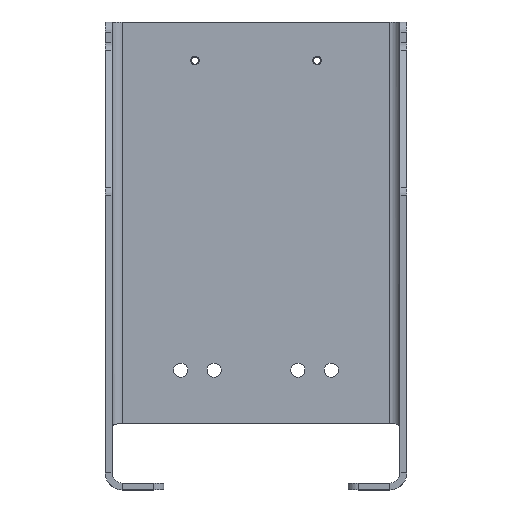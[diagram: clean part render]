
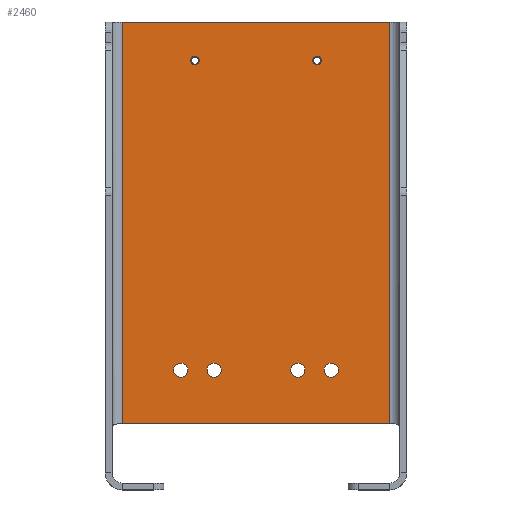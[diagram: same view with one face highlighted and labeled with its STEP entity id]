
A CAD part, top view. The second image highlights one B-rep face of the part: STEP entity #2460.
In plain terms, the highlighted planar face has unit normal (0, 0, 1).
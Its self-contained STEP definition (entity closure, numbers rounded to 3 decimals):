
#783=CARTESIAN_POINT('',(-36.5,0.,0.));
#784=DIRECTION('',(0.,0.,1.));
#785=DIRECTION('',(-1.,0.,0.));
#786=AXIS2_PLACEMENT_3D('',#783,#784,#785);
#791=CARTESIAN_POINT('',(-36.5,0.,0.));
#792=DIRECTION('',(0.,0.,1.));
#793=DIRECTION('',(1.,0.,0.));
#794=AXIS2_PLACEMENT_3D('',#791,#792,#793);
#799=CARTESIAN_POINT('',(36.5,0.,0.));
#800=DIRECTION('',(0.,0.,1.));
#801=DIRECTION('',(-1.,0.,0.));
#802=AXIS2_PLACEMENT_3D('',#799,#800,#801);
#807=CARTESIAN_POINT('',(36.5,0.,0.));
#808=DIRECTION('',(0.,0.,1.));
#809=DIRECTION('',(1.,0.,0.));
#810=AXIS2_PLACEMENT_3D('',#807,#808,#809);
#815=DIRECTION('',(0.,-1.,0.));
#816=VECTOR('',#815,240.);
#817=CARTESIAN_POINT('',(80.,23.,0.));
#818=LINE('',#817,#816);
#822=DIRECTION('',(-1.,0.,0.));
#823=VECTOR('',#822,160.);
#824=CARTESIAN_POINT('',(80.,-217.,0.));
#825=LINE('',#824,#823);
#829=DIRECTION('',(0.,1.,0.));
#830=VECTOR('',#829,240.);
#831=CARTESIAN_POINT('',(-80.,-217.,0.));
#832=LINE('',#831,#830);
#836=DIRECTION('',(1.,0.,0.));
#837=VECTOR('',#836,160.);
#838=CARTESIAN_POINT('',(-80.,23.,0.));
#839=LINE('',#838,#837);
#843=CARTESIAN_POINT('',(-45.,-185.,0.));
#844=DIRECTION('',(0.,0.,1.));
#845=DIRECTION('',(-1.,0.,0.));
#846=AXIS2_PLACEMENT_3D('',#843,#844,#845);
#851=CARTESIAN_POINT('',(-45.,-185.,0.));
#852=DIRECTION('',(0.,0.,1.));
#853=DIRECTION('',(1.,0.,0.));
#854=AXIS2_PLACEMENT_3D('',#851,#852,#853);
#859=CARTESIAN_POINT('',(-25.,-185.,0.));
#860=DIRECTION('',(0.,0.,1.));
#861=DIRECTION('',(-1.,0.,0.));
#862=AXIS2_PLACEMENT_3D('',#859,#860,#861);
#867=CARTESIAN_POINT('',(-25.,-185.,0.));
#868=DIRECTION('',(0.,0.,1.));
#869=DIRECTION('',(1.,0.,0.));
#870=AXIS2_PLACEMENT_3D('',#867,#868,#869);
#875=CARTESIAN_POINT('',(25.,-185.,0.));
#876=DIRECTION('',(0.,0.,1.));
#877=DIRECTION('',(-1.,0.,0.));
#878=AXIS2_PLACEMENT_3D('',#875,#876,#877);
#883=CARTESIAN_POINT('',(25.,-185.,0.));
#884=DIRECTION('',(0.,0.,1.));
#885=DIRECTION('',(1.,0.,0.));
#886=AXIS2_PLACEMENT_3D('',#883,#884,#885);
#891=CARTESIAN_POINT('',(45.,-185.,0.));
#892=DIRECTION('',(0.,0.,1.));
#893=DIRECTION('',(-1.,0.,0.));
#894=AXIS2_PLACEMENT_3D('',#891,#892,#893);
#899=CARTESIAN_POINT('',(45.,-185.,0.));
#900=DIRECTION('',(0.,0.,1.));
#901=DIRECTION('',(1.,0.,0.));
#902=AXIS2_PLACEMENT_3D('',#899,#900,#901);
#1588=CARTESIAN_POINT('',(80.,-217.,0.));
#1589=CARTESIAN_POINT('',(-80.,-217.,0.));
#1590=VERTEX_POINT('',#1588);
#1591=VERTEX_POINT('',#1589);
#1592=CARTESIAN_POINT('',(-80.,23.,0.));
#1593=CARTESIAN_POINT('',(80.,23.,0.));
#1594=VERTEX_POINT('',#1592);
#1595=VERTEX_POINT('',#1593);
#1604=CARTESIAN_POINT('',(-38.6,0.,0.));
#1605=CARTESIAN_POINT('',(-34.4,0.,0.));
#1606=VERTEX_POINT('',#1604);
#1607=VERTEX_POINT('',#1605);
#1612=CARTESIAN_POINT('',(34.4,0.,0.));
#1613=CARTESIAN_POINT('',(38.6,0.,0.));
#1614=VERTEX_POINT('',#1612);
#1615=VERTEX_POINT('',#1613);
#1668=CARTESIAN_POINT('',(-49.25,-185.,0.));
#1669=CARTESIAN_POINT('',(-40.75,-185.,0.));
#1670=VERTEX_POINT('',#1668);
#1671=VERTEX_POINT('',#1669);
#1672=CARTESIAN_POINT('',(-29.25,-185.,0.));
#1673=CARTESIAN_POINT('',(-20.75,-185.,0.));
#1674=VERTEX_POINT('',#1672);
#1675=VERTEX_POINT('',#1673);
#1676=CARTESIAN_POINT('',(20.75,-185.,0.));
#1677=CARTESIAN_POINT('',(29.25,-185.,0.));
#1678=VERTEX_POINT('',#1676);
#1679=VERTEX_POINT('',#1677);
#1680=CARTESIAN_POINT('',(40.75,-185.,0.));
#1681=CARTESIAN_POINT('',(49.25,-185.,0.));
#1682=VERTEX_POINT('',#1680);
#1683=VERTEX_POINT('',#1681);
#2412=CARTESIAN_POINT('',(0.,0.,0.));
#2413=DIRECTION('',(0.,0.,1.));
#2414=DIRECTION('',(1.,0.,0.));
#2415=AXIS2_PLACEMENT_3D('',#2412,#2413,#2414);
#2416=PLANE('',#2415);
#2417=ORIENTED_EDGE('',*,*,#1841,.T.);
#2418=ORIENTED_EDGE('',*,*,#2342,.T.);
#2420=ORIENTED_EDGE('',*,*,#2419,.T.);
#2422=ORIENTED_EDGE('',*,*,#2421,.T.);
#2423=EDGE_LOOP('',(#2417,#2418,#2420,#2422));
#2424=FACE_OUTER_BOUND('',#2423,.F.);
#2426=ORIENTED_EDGE('',*,*,#2425,.T.);
#2428=ORIENTED_EDGE('',*,*,#2427,.T.);
#2429=EDGE_LOOP('',(#2426,#2428));
#2430=FACE_BOUND('',#2429,.F.);
#2431=ORIENTED_EDGE('',*,*,#2402,.T.);
#2433=ORIENTED_EDGE('',*,*,#2432,.T.);
#2434=EDGE_LOOP('',(#2431,#2433));
#2435=FACE_BOUND('',#2434,.F.);
#2437=ORIENTED_EDGE('',*,*,#2436,.T.);
#2439=ORIENTED_EDGE('',*,*,#2438,.T.);
#2440=EDGE_LOOP('',(#2437,#2439));
#2441=FACE_BOUND('',#2440,.F.);
#2443=ORIENTED_EDGE('',*,*,#2442,.T.);
#2445=ORIENTED_EDGE('',*,*,#2444,.T.);
#2446=EDGE_LOOP('',(#2443,#2445));
#2447=FACE_BOUND('',#2446,.F.);
#2449=ORIENTED_EDGE('',*,*,#2448,.T.);
#2451=ORIENTED_EDGE('',*,*,#2450,.T.);
#2452=EDGE_LOOP('',(#2449,#2451));
#2453=FACE_BOUND('',#2452,.F.);
#2455=ORIENTED_EDGE('',*,*,#2454,.T.);
#2457=ORIENTED_EDGE('',*,*,#2456,.T.);
#2458=EDGE_LOOP('',(#2455,#2457));
#2459=FACE_BOUND('',#2458,.F.);
#787=CIRCLE('',#786,2.1);
#795=CIRCLE('',#794,2.1);
#803=CIRCLE('',#802,2.1);
#811=CIRCLE('',#810,2.1);
#847=CIRCLE('',#846,4.25);
#855=CIRCLE('',#854,4.25);
#863=CIRCLE('',#862,4.25);
#871=CIRCLE('',#870,4.25);
#879=CIRCLE('',#878,4.25);
#887=CIRCLE('',#886,4.25);
#895=CIRCLE('',#894,4.25);
#903=CIRCLE('',#902,4.25);
#1841=EDGE_CURVE('',#1595,#1590,#818,.T.);
#2342=EDGE_CURVE('',#1590,#1591,#825,.T.);
#2402=EDGE_CURVE('',#1606,#1607,#787,.T.);
#2419=EDGE_CURVE('',#1591,#1594,#832,.T.);
#2421=EDGE_CURVE('',#1594,#1595,#839,.T.);
#2425=EDGE_CURVE('',#1614,#1615,#803,.T.);
#2427=EDGE_CURVE('',#1615,#1614,#811,.T.);
#2432=EDGE_CURVE('',#1607,#1606,#795,.T.);
#2436=EDGE_CURVE('',#1670,#1671,#847,.T.);
#2438=EDGE_CURVE('',#1671,#1670,#855,.T.);
#2442=EDGE_CURVE('',#1674,#1675,#863,.T.);
#2444=EDGE_CURVE('',#1675,#1674,#871,.T.);
#2448=EDGE_CURVE('',#1678,#1679,#879,.T.);
#2450=EDGE_CURVE('',#1679,#1678,#887,.T.);
#2454=EDGE_CURVE('',#1682,#1683,#895,.T.);
#2456=EDGE_CURVE('',#1683,#1682,#903,.T.);
#2460=ADVANCED_FACE('',(#2424,#2430,#2435,#2441,#2447,#2453,#2459),#2416,.T.);
